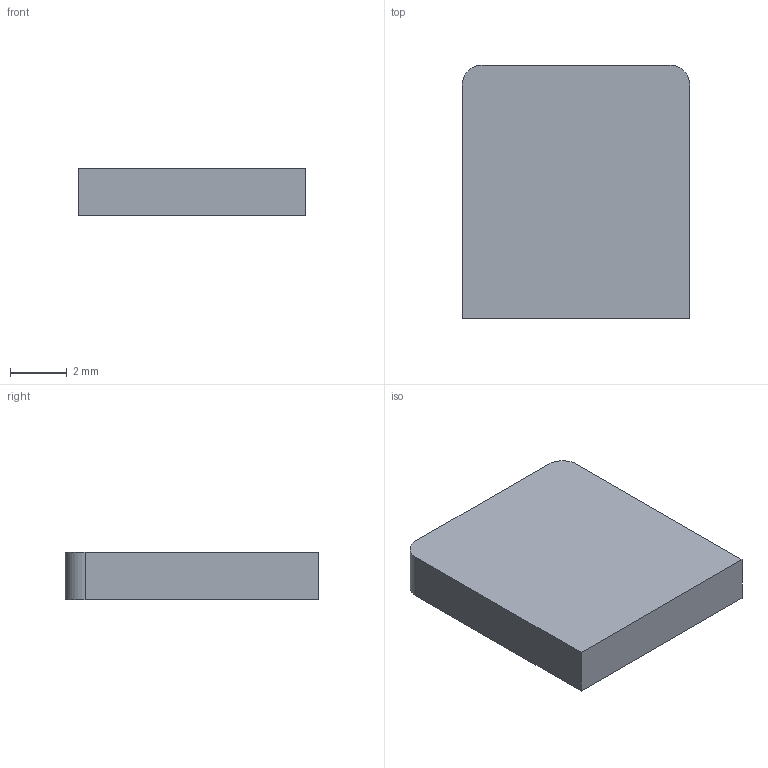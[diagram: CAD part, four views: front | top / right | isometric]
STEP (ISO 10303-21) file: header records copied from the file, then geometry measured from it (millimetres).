
FILE_DESCRIPTION(/* description */ (''),/* implementation_level */ '2;1');
FILE_NAME(/* name */ 'C27_R2_Battery_Front_Pad_-1_2.step',/* time_stamp */ '2026-09-10T17:48:51-07:00',/* author */ (''),/* organization */ (''),/* preprocessor_version */ 'ST-DEVELOPER v20.1',/* originating_system */ 'Autodesk Translation Framework v15.8.0.0',/* authorisation */ '');
FILE_SCHEMA (('AUTOMOTIVE_DESIGN { 1 0 10303 214 3 1 1 }'));
Length unit declared in the file: millimetre
Products named in the file (1): 2026-09-10-17-48-51-380
Bounding box: 8 x 8.92 x 1.66 mm (x, y, z)
Volume: 118.1 mm3; surface area: 197.5 mm2
Topology: 1 solids, 1 shells, 8 faces, 18 edges, 12 vertices
Faces by surface type: plane 6, cylinder 2
Entity records: 259 total; most frequent: DIRECTION 40, CARTESIAN_POINT 39, ORIENTED_EDGE 36, EDGE_CURVE 18, LINE 14, VECTOR 14, AXIS2_PLACEMENT_3D 13, VERTEX_POINT 12
